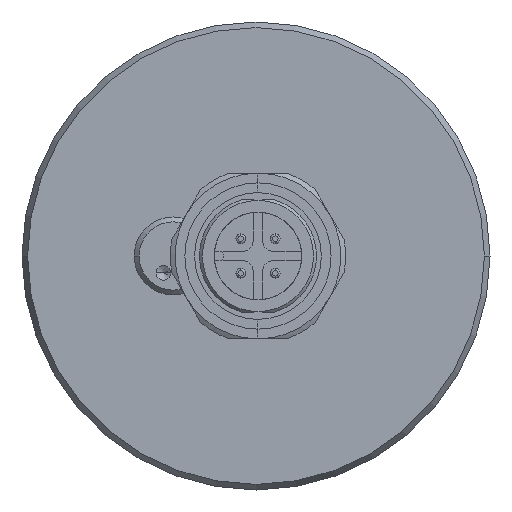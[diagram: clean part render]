
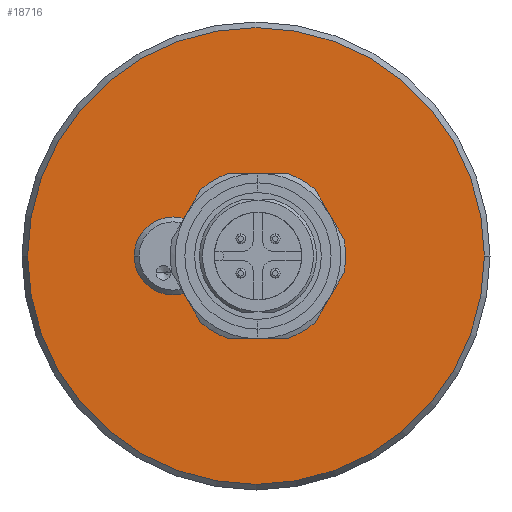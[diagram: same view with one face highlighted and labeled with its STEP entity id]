
A CAD part, left-side view. The second image highlights one B-rep face of the part: STEP entity #18716.
In plain terms, the highlighted planar face has unit normal (-1, 0, 0).
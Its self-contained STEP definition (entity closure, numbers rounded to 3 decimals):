
#6088=CARTESIAN_POINT('',(0.,0.,
0.));
#6089=DIRECTION('',(-1.,0.,0.));
#6090=DIRECTION('',(0.,1.,0.));
#6091=AXIS2_PLACEMENT_3D('',#6088,#6089,#6090);
#6093=CARTESIAN_POINT('',(0.,0.,
0.));
#6094=DIRECTION('',(-1.,0.,0.));
#6095=DIRECTION('',(0.,-1.,0.));
#6096=AXIS2_PLACEMENT_3D('',#6093,#6094,#6095);
#6098=CARTESIAN_POINT('',(0.,8.5,0.));
#6099=DIRECTION('',(1.,0.,0.));
#6100=DIRECTION('',(0.,1.,0.));
#6101=AXIS2_PLACEMENT_3D('',#6098,#6099,#6100);
#6103=CARTESIAN_POINT('',(0.,8.5,0.));
#6104=DIRECTION('',(1.,0.,0.));
#6105=DIRECTION('',(0.,-1.,0.));
#6106=AXIS2_PLACEMENT_3D('',#6103,#6104,#6105);
#6108=CARTESIAN_POINT('',(0.,0.,0.));
#6109=DIRECTION('',(-1.,0.,0.));
#6110=DIRECTION('',(0.,0.,1.));
#6111=AXIS2_PLACEMENT_3D('',#6108,#6109,#6110);
#6113=CARTESIAN_POINT('',(0.,0.,0.));
#6114=DIRECTION('',(-1.,0.,0.));
#6115=DIRECTION('',(0.,0.,-1.));
#6116=AXIS2_PLACEMENT_3D('',#6113,#6114,#6115);
#6812=CARTESIAN_POINT('',(0.,23.422,0.));
#6813=CARTESIAN_POINT('',(0.,-23.422,0.));
#6814=VERTEX_POINT('',#6812);
#6815=VERTEX_POINT('',#6813);
#6908=CARTESIAN_POINT('',(0.,12.5,0.));
#6909=CARTESIAN_POINT('',(0.,4.5,0.));
#6910=VERTEX_POINT('',#6908);
#6911=VERTEX_POINT('',#6909);
#8520=CARTESIAN_POINT('',(0.,0.,2.55));
#8521=CARTESIAN_POINT('',(0.,0.,-2.55));
#8522=VERTEX_POINT('',#8520);
#8523=VERTEX_POINT('',#8521);
#18694=CARTESIAN_POINT('',(0.,0.,0.));
#18695=DIRECTION('',(-1.,0.,0.));
#18696=DIRECTION('',(0.,1.,0.));
#18697=AXIS2_PLACEMENT_3D('',#18694,#18695,#18696);
#18698=PLANE('',#18697);
#18700=ORIENTED_EDGE('',*,*,#18699,.F.);
#18702=ORIENTED_EDGE('',*,*,#18701,.F.);
#18703=EDGE_LOOP('',(#18700,#18702));
#18704=FACE_OUTER_BOUND('',#18703,.F.);
#18706=ORIENTED_EDGE('',*,*,#18705,.F.);
#18708=ORIENTED_EDGE('',*,*,#18707,.F.);
#18709=EDGE_LOOP('',(#18706,#18708));
#18710=FACE_BOUND('',#18709,.F.);
#18711=ORIENTED_EDGE('',*,*,#18677,.T.);
#18713=ORIENTED_EDGE('',*,*,#18712,.T.);
#18714=EDGE_LOOP('',(#18711,#18713));
#18715=FACE_BOUND('',#18714,.F.);
#18716=ADVANCED_FACE('',(#18704,#18710,#18715),#18698,.T.);
#6092=CIRCLE('',#6091,23.422);
#6097=CIRCLE('',#6096,23.422);
#6102=CIRCLE('',#6101,4.);
#6107=CIRCLE('',#6106,4.);
#6112=CIRCLE('',#6111,2.55);
#6117=CIRCLE('',#6116,2.55);
#18677=EDGE_CURVE('',#8522,#8523,#6112,.T.);
#18699=EDGE_CURVE('',#6814,#6815,#6092,.T.);
#18701=EDGE_CURVE('',#6815,#6814,#6097,.T.);
#18705=EDGE_CURVE('',#6910,#6911,#6102,.T.);
#18707=EDGE_CURVE('',#6911,#6910,#6107,.T.);
#18712=EDGE_CURVE('',#8523,#8522,#6117,.T.);
